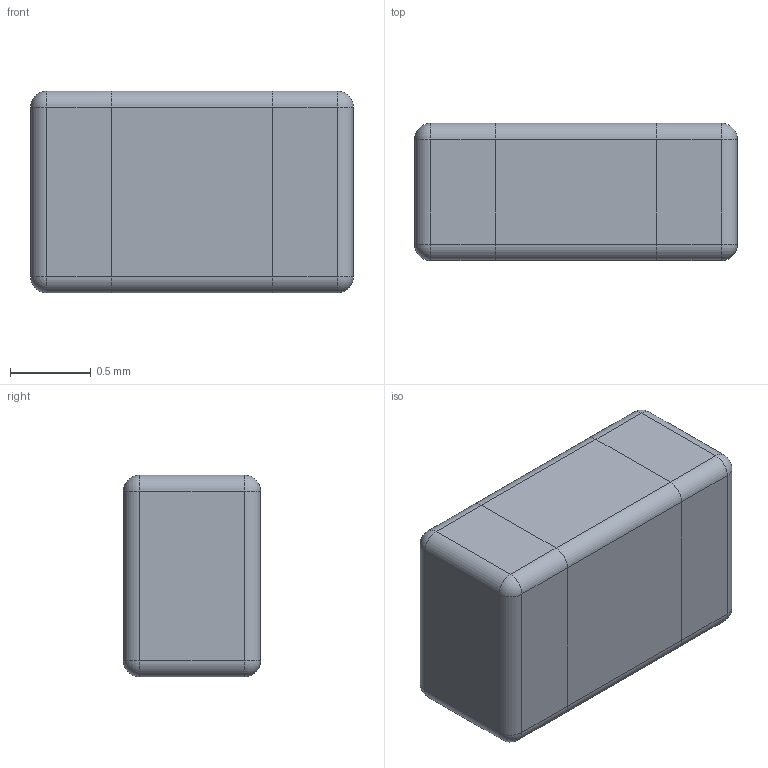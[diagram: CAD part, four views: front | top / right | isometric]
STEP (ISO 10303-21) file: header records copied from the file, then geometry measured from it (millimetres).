
FILE_DESCRIPTION (( 'STEP AP214' ), '1' );
FILE_NAME ('AIMC-0805.STEP', '2013-09-26T10:37:44', ( '' ), ( '' ), 'SwSTEP 2.0', 'SolidWorks 2012', '' );
FILE_SCHEMA (( 'AUTOMOTIVE_DESIGN' ));
Length unit declared in the file: millimetre
Products named in the file (1): AIMC-0805
Bounding box: 2 x 0.85 x 1.25 mm (x, y, z)
Volume: 2.1 mm3; surface area: 9.8 mm2
Topology: 1 solids, 1 shells, 148 faces, 364 edges, 224 vertices
Faces by surface type: plane 68, bspline 52, cylinder 20, sphere 8
Entity records: 9128 total; most frequent: CARTESIAN_POINT 4477, ORIENTED_EDGE 712, DIRECTION 478, EDGE_CURVE 356, VERTEX_POINT 224, LINE 220, VECTOR 220, EDGE_LOOP 162
